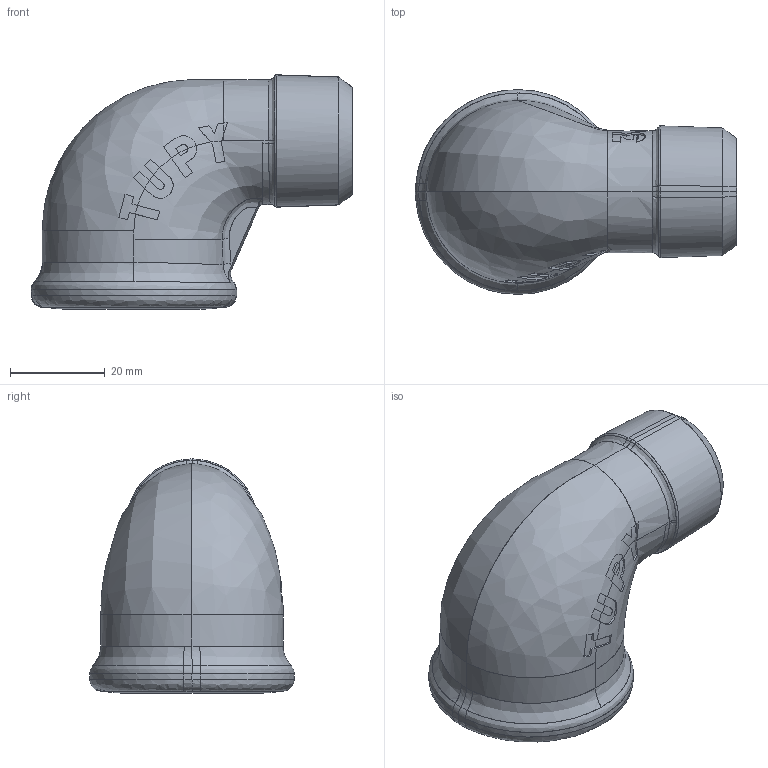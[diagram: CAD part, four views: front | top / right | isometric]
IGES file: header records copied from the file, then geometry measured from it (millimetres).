
Start section: C
Global section: file name: 12-20-033-fer.igs; native system: By Siemens PLM Incorporated; preprocessor: XPlus GENERIC/IGES 18.0.17; author: Author; organization: Title; date: 20180403.162913; units: millimetre
Bounding box: 68.06 x 43.3 x 49.61 mm (x, y, z)
Surface area: 14384.1 mm2 (no closed solid volume)
Topology: 0 solids, 0 shells, 203 faces, 1168 edges, 1168 vertices
Faces by surface type: bspline 203
